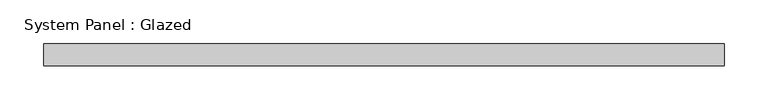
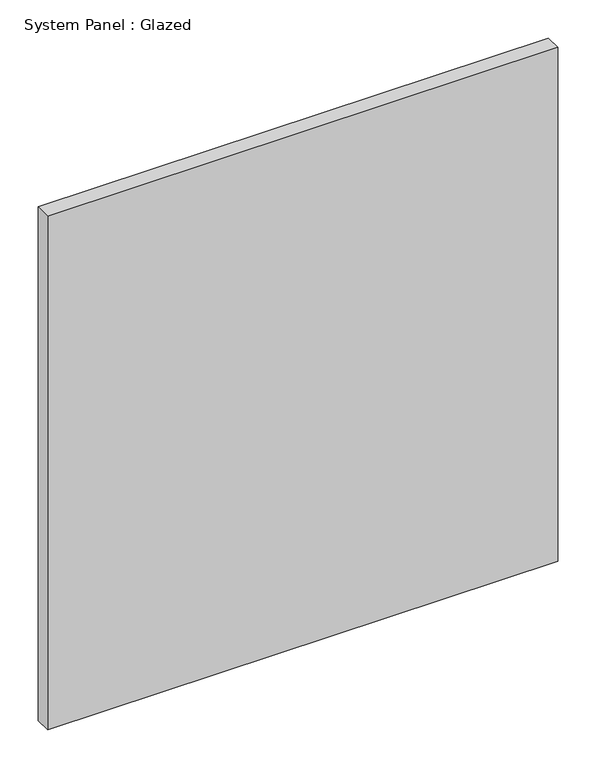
"""IFC4 building model written with IfcOpenShell, lengths in millimetres: plate geometry, System Panel : Glazed."""

from ifc_helpers import new_model, si_unit, origin, origin_with_axes, place, context, project, spatial, polyline, outline, extrude, source, transform, mapped, element, save


def system_panel_glazed_4d4212b5(model_context):
    return source(origin(), model_context, "Body", "SweptSolid", [
        extrude(outline(polyline([(387.5, 24.5), (-387.5, 24.5), (-387.5, 49.5), (387.5, 49.5), (387.5, 24.5)])), origin_with_axes(), (0.0, 0.0, 1.0), 825.0),
    ])


if __name__ == "__main__":
    model = new_model("IFC4")
    model_context = context("Model", 3, world=origin())
    ifc_project = project(units=[si_unit("LENGTHUNIT", "METRE", prefix="MILLI")], contexts=[model_context])
    site = spatial("IfcSite", under=ifc_project)
    building = spatial("IfcBuilding", under=site)
    placement = place(None, origin())
    system_panel_glazed_shape = system_panel_glazed_4d4212b5(model_context)
    element("IfcPlate", 1, ObjectType="System Panel : Glazed", at=placement, inside=building, context=model_context, shape_type="MappedRepresentation", body=[
        mapped(system_panel_glazed_shape, transform((0.0, 0.0, 0.0), x_axis=(1.0, 0.0, 0.0), y_axis=(0.0, 1.0, 0.0), z_axis=(0.0, 0.0, 1.0))),
    ])
    save(model, "model.ifc")
